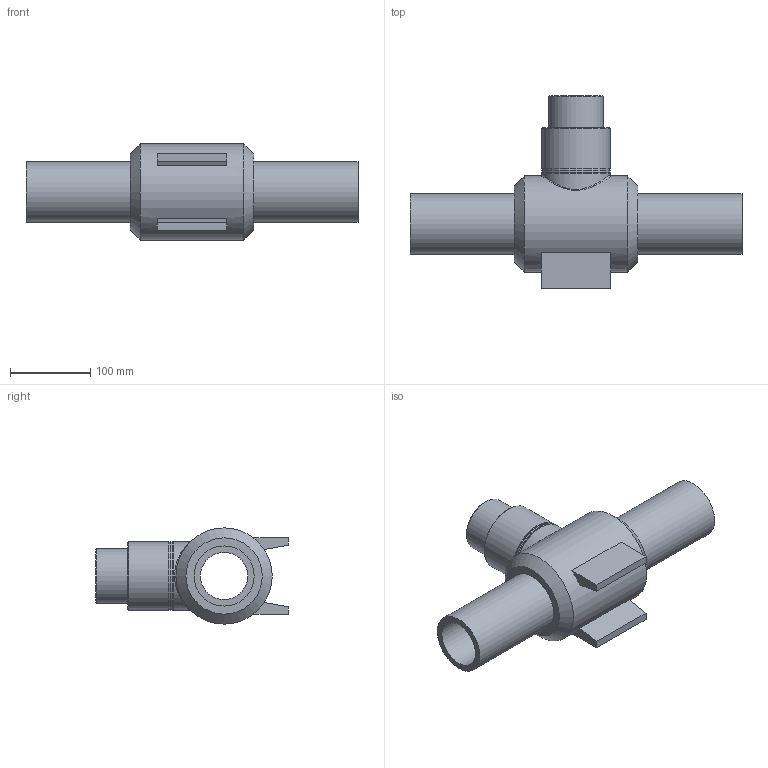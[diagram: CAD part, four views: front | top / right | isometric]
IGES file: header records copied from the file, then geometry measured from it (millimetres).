
Global section: file name: 436207075.ipt; native system: Autodesk Inventor 2015; preprocessor: unknown; author: Кирилл,,11,0; organization: 20170828.110610; date: 20171001.144235; units: millimetre
Bounding box: 414 x 240 x 120 mm (x, y, z)
Volume: 1830260.1 mm3; surface area: 262929.6 mm2
Topology: 1 solids, 1 shells, 33 faces, 81 edges, 54 vertices
Faces by surface type: plane 16, cylinder 7, cone 4, revolution 4, bspline 2
Full cylindrical faces by diameter (mm): 68 x1, 75 x2, 85 x3, 120 x1
